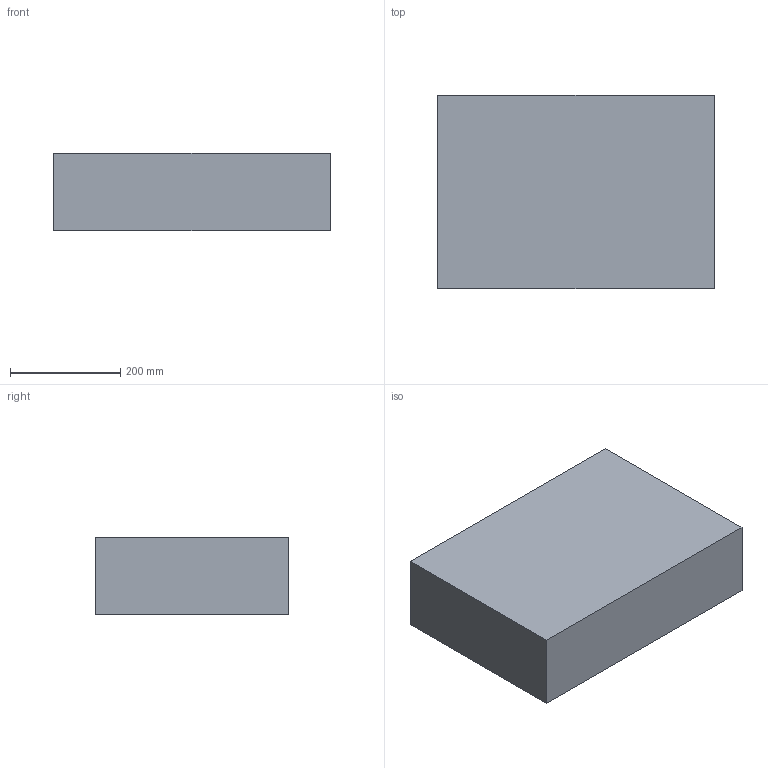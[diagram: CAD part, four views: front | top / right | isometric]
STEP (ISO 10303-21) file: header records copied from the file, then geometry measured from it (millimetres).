
FILE_DESCRIPTION(/* description */ (''),/* implementation_level */ '2;1');
FILE_NAME(/* name */ 'EG (-X) 300.stp',/* time_stamp */ '2024-09-26T17:01:18+02:00',/* author */ ('d.streicher'),/* organization */ (''),/* preprocessor_version */ 'ST-DEVELOPER v20',/* originating_system */ 'Autodesk Inventor 2025',/* authorisation */ '');
FILE_SCHEMA (('AUTOMOTIVE_DESIGN { 1 0 10303 214 3 1 1 }'));
Length unit declared in the file: millimetre
Products named in the file (1): EG (-X) 300
Bounding box: 500 x 350 x 140 mm (x, y, z)
Volume: 4890080 mm3; surface area: 990684 mm2
Topology: 7 solids, 7 shells, 40 faces, 72 edges, 48 vertices
Faces by surface type: plane 28, cylinder 12
Full cylindrical faces by diameter (mm): 4 x12
Entity records: 1076 total; most frequent: DIRECTION 178, CARTESIAN_POINT 161, ORIENTED_EDGE 144, EDGE_CURVE 72, AXIS2_PLACEMENT_3D 65, EDGE_LOOP 54, LINE 48, VECTOR 48
